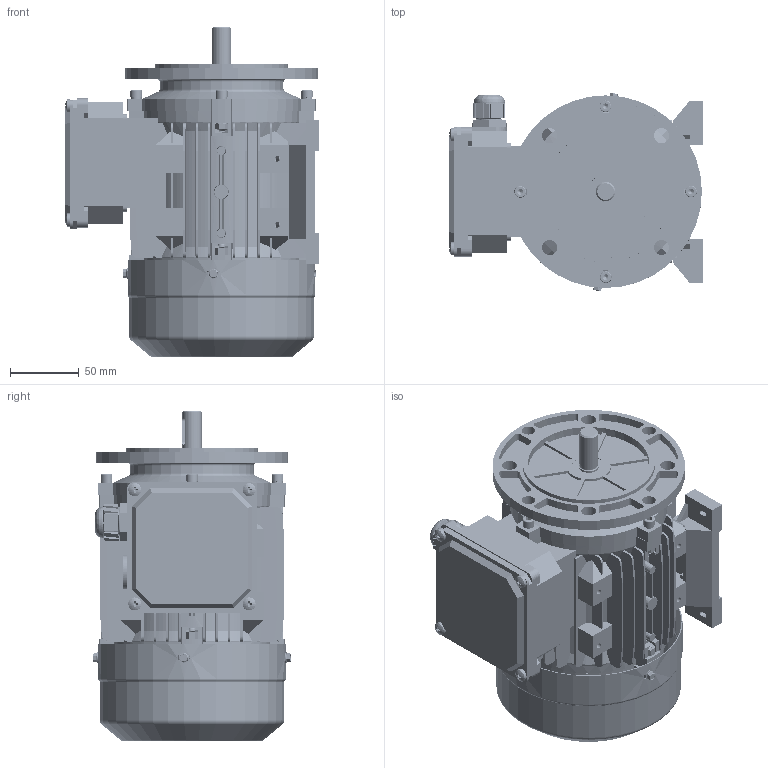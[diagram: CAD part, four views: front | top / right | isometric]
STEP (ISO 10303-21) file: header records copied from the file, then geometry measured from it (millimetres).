
FILE_DESCRIPTION (( 'STEP AP203' ), '1' );
FILE_NAME ('MS71M B35R 3D蚾饜芞.STEP', '2024-08-23T08:16:15', ( 'User' ), ( 'China' ), 'SwSTEP 2.0', 'SolidWorks 2018', '' );
FILE_SCHEMA (( 'CONFIG_CONTROL_DESIGN' ));
Length unit declared in the file: millimetre
Products named in the file (23): spring lock washers--normal type gb_GB_FASTENER_WASHER_SW 5; hexagon nut (grades c) as_AS 1112.3 C- M5-S; MS71B5R傷裔; hex nuts, style 1-grades ab gb_GB_FASTENER_NUT_SNAB1 M5-N; 8.306.07101MS71邧脯瑞欶; MS71M B35R 3D蚾饜芞; 蚐猾25X14X4; hex washer head screw_as_AS-NZS 1427 HW - M4 x 6-N; 黑芛20X1.5; pan cross head screw_as_AS-NZS 1427 PC- M4 x 8-S; spring lock washers--normal type gb_GB_FASTENER_WASHER_SW 6; pan cross head screw_as_AS-NZS 1427 PC- M5 x 8-S; 8.034.07101MS71 S儂褲; hexagon socket head cap screws gb_GB_FASTENER_SCREWS_HSHCS M6X20-S; 蹟杶郋M20X1.5; 8.013.07102MS71綴傷裔; MS63-71諉盄碟菁釱; 蹟簸M20X1.5; 8.200.07101MS71 S蛌粣; MS63-71諉盄碟裔; hexagon socket head cap screws gb_GB_FASTENER_SCREWS_HSHCS M5X25-S; hexagon socket head cap screw_as_AS 1420 - M5 x 25-S; 8.043.07101MS71菁褐
Assembly tree (51 placements, depth 2):
  MS71M B35R 3D蚾饜芞
    8.034.07101MS71 S儂褲
    8.013.07102MS71綴傷裔
    8.200.07101MS71 S蛌粣
    hexagon socket head cap screw_as_AS 1420 - M5 x 25-S  x4
    hexagon nut (grades c) as_AS 1112.3 C- M5-S  x4
    8.306.07101MS71邧脯瑞欶
    hex washer head screw_as_AS-NZS 1427 HW - M4 x 6-N  x3
    pan cross head screw_as_AS-NZS 1427 PC- M4 x 8-S  x4
    pan cross head screw_as_AS-NZS 1427 PC- M5 x 8-S  x4
    蹟杶郋M20X1.5
    蹟簸M20X1.5
    hexagon socket head cap screws gb_GB_FASTENER_SCREWS_HSHCS M5X25-S  x4
    spring lock washers--normal type gb_GB_FASTENER_WASHER_SW 5  x4
    hex nuts, style 1-grades ab gb_GB_FASTENER_NUT_SNAB1 M5-N  x3
    蚐猾25X14X4
    黑芛20X1.5
    spring lock washers--normal type gb_GB_FASTENER_WASHER_SW 6  x4
    hexagon socket head cap screws gb_GB_FASTENER_SCREWS_HSHCS M6X20-S  x4
    MS63-71諉盄碟菁釱
    MS63-71諉盄碟裔
    8.043.07101MS71菁褐  x2
    MS71B5R傷裔
Bounding box: 185 x 143.8 x 240.1 mm (x, y, z)
Volume: 695379.9 mm3; surface area: 495938.4 mm2
Topology: 51 solids, 60 shells, 6981 faces, 16565 edges, 9780 vertices
Faces by surface type: cone 2488, plane 2380, cylinder 1839, bspline 146, torus 112, sphere 16
Entity records: 140067 total; most frequent: CARTESIAN_POINT 43683, ORIENTED_EDGE 20130, DIRECTION 18410, EDGE_CURVE 10065, VERTEX_POINT 6361, AXIS2_PLACEMENT_3D 6269, VECTOR 5872, LINE 5872
